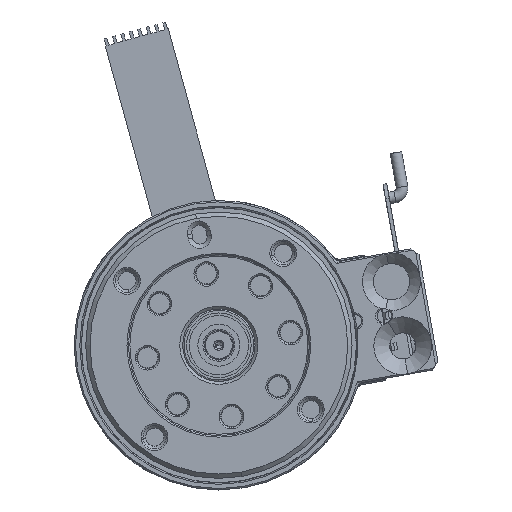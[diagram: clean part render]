
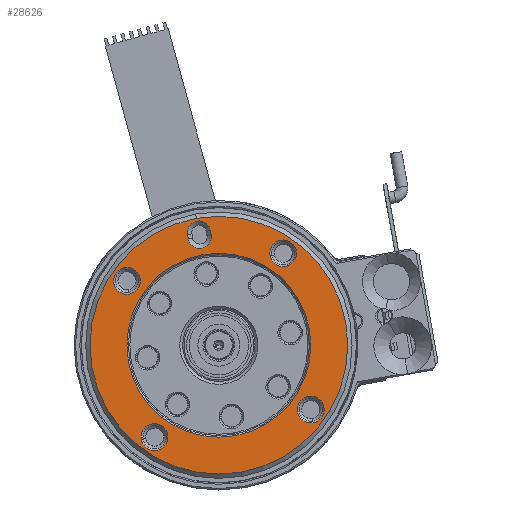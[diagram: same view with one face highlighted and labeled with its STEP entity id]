
A CAD part, front view. The second image highlights one B-rep face of the part: STEP entity #28626.
In plain terms, the highlighted planar face has unit normal (0, -1, 0) as drawn and (-1, 0, 0) by its records, which use the part's own axes.
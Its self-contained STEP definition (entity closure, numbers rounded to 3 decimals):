
#25606=CARTESIAN_POINT('',(-1.,0.,0.));
#25607=DIRECTION('',(1.,0.,0.));
#25608=DIRECTION('',(0.,0.,-1.));
#25609=AXIS2_PLACEMENT_3D('',#25606,#25607,#25608);
#25611=CARTESIAN_POINT('',(-1.,0.,0.));
#25612=DIRECTION('',(1.,0.,0.));
#25613=DIRECTION('',(0.,0.,1.));
#25614=AXIS2_PLACEMENT_3D('',#25611,#25612,#25613);
#25616=CARTESIAN_POINT('',(-1.,0.,0.));
#25617=DIRECTION('',(-1.,0.,0.));
#25618=DIRECTION('',(0.,0.,-1.));
#25619=AXIS2_PLACEMENT_3D('',#25616,#25617,#25618);
#25621=CARTESIAN_POINT('',(-1.,0.,0.));
#25622=DIRECTION('',(-1.,0.,0.));
#25623=DIRECTION('',(0.,0.,1.));
#25624=AXIS2_PLACEMENT_3D('',#25621,#25622,#25623);
#25626=CARTESIAN_POINT('',(-1.,-5.48,-5.48));
#25627=DIRECTION('',(-1.,0.,0.));
#25628=DIRECTION('',(0.,0.,-1.));
#25629=AXIS2_PLACEMENT_3D('',#25626,#25627,#25628);
#25631=CARTESIAN_POINT('',(-1.,-5.48,-5.48));
#25632=DIRECTION('',(-1.,0.,0.));
#25633=DIRECTION('',(0.,0.,1.));
#25634=AXIS2_PLACEMENT_3D('',#25631,#25632,#25633);
#25636=CARTESIAN_POINT('',(-1.,5.48,-5.48));
#25637=DIRECTION('',(-1.,0.,0.));
#25638=DIRECTION('',(0.,-1.,0.));
#25639=AXIS2_PLACEMENT_3D('',#25636,#25637,#25638);
#25641=CARTESIAN_POINT('',(-1.,5.48,-5.48));
#25642=DIRECTION('',(-1.,0.,0.));
#25643=DIRECTION('',(0.,0.,1.));
#25644=AXIS2_PLACEMENT_3D('',#25641,#25642,#25643);
#25646=CARTESIAN_POINT('',(-1.,5.48,-5.48));
#25647=DIRECTION('',(-1.,0.,0.));
#25648=DIRECTION('',(0.,1.,0.));
#25649=AXIS2_PLACEMENT_3D('',#25646,#25647,#25648);
#25651=CARTESIAN_POINT('',(-1.,5.48,-5.48));
#25652=DIRECTION('',(-1.,0.,0.));
#25653=DIRECTION('',(0.,0.,-1.));
#25654=AXIS2_PLACEMENT_3D('',#25651,#25652,#25653);
#25656=CARTESIAN_POINT('',(-1.,5.48,5.48));
#25657=DIRECTION('',(-1.,0.,0.));
#25658=DIRECTION('',(0.,0.,-1.));
#25659=AXIS2_PLACEMENT_3D('',#25656,#25657,#25658);
#25661=CARTESIAN_POINT('',(-1.,5.48,5.48));
#25662=DIRECTION('',(-1.,0.,0.));
#25663=DIRECTION('',(0.,0.,1.));
#25664=AXIS2_PLACEMENT_3D('',#25661,#25662,#25663);
#25666=CARTESIAN_POINT('',(-1.,-5.48,5.48));
#25667=DIRECTION('',(-1.,0.,0.));
#25668=DIRECTION('',(0.,-1.,0.));
#25669=AXIS2_PLACEMENT_3D('',#25666,#25667,#25668);
#25671=CARTESIAN_POINT('',(-1.,-5.48,5.48));
#25672=DIRECTION('',(-1.,0.,0.));
#25673=DIRECTION('',(0.,0.,1.));
#25674=AXIS2_PLACEMENT_3D('',#25671,#25672,#25673);
#25676=CARTESIAN_POINT('',(-1.,-5.48,5.48));
#25677=DIRECTION('',(-1.,0.,0.));
#25678=DIRECTION('',(0.,1.,0.));
#25679=AXIS2_PLACEMENT_3D('',#25676,#25677,#25678);
#25681=CARTESIAN_POINT('',(-1.,-5.48,5.48));
#25682=DIRECTION('',(-1.,0.,0.));
#25683=DIRECTION('',(0.,0.,-1.));
#25684=AXIS2_PLACEMENT_3D('',#25681,#25682,#25683);
#25686=CARTESIAN_POINT('',(-1.,0.,7.9));
#25687=DIRECTION('',(-1.,0.,0.));
#25688=DIRECTION('',(0.,-1.,0.));
#25689=AXIS2_PLACEMENT_3D('',#25686,#25687,#25688);
#25691=CARTESIAN_POINT('',(-1.,0.,7.9));
#25692=DIRECTION('',(-1.,0.,0.));
#25693=DIRECTION('',(0.,0.,1.));
#25694=AXIS2_PLACEMENT_3D('',#25691,#25692,#25693);
#25696=CARTESIAN_POINT('',(-1.,0.,7.6));
#25697=DIRECTION('',(-1.,0.,0.));
#25698=DIRECTION('',(0.,1.,0.));
#25699=AXIS2_PLACEMENT_3D('',#25696,#25697,#25698);
#25701=CARTESIAN_POINT('',(-1.,0.,7.6));
#25702=DIRECTION('',(-1.,0.,0.));
#25703=DIRECTION('',(0.,0.,-1.));
#25704=AXIS2_PLACEMENT_3D('',#25701,#25702,#25703);
#26089=DIRECTION('',(0.,0.,1.));
#26090=VECTOR('',#26089,0.3);
#26091=CARTESIAN_POINT('',(-1.,0.8,
7.6));
#26092=LINE('',#26091,#26090);
#26111=DIRECTION('',(0.,0.,-1.));
#26112=VECTOR('',#26111,0.3);
#26113=CARTESIAN_POINT('',(-1.,-0.8,
7.9));
#26114=LINE('',#26113,#26112);
#27483=CARTESIAN_POINT('',(-1.,0.,6.35));
#27484=CARTESIAN_POINT('',(-1.,0.,-6.35));
#27485=VERTEX_POINT('',#27483);
#27486=VERTEX_POINT('',#27484);
#27487=CARTESIAN_POINT('',(-1.,0.,-8.9));
#27488=CARTESIAN_POINT('',(-1.,0.,8.9));
#27489=VERTEX_POINT('',#27487);
#27490=VERTEX_POINT('',#27488);
#27491=CARTESIAN_POINT('',(-1.,-5.48,-6.405));
#27492=CARTESIAN_POINT('',(-1.,-5.48,-4.555));
#27493=VERTEX_POINT('',#27491);
#27494=VERTEX_POINT('',#27492);
#27495=CARTESIAN_POINT('',(-1.,4.555,-5.48));
#27496=CARTESIAN_POINT('',(-1.,5.48,-4.555));
#27497=VERTEX_POINT('',#27495);
#27498=VERTEX_POINT('',#27496);
#27499=CARTESIAN_POINT('',(-1.,6.405,-5.48));
#27500=VERTEX_POINT('',#27499);
#27501=CARTESIAN_POINT('',(-1.,5.48,-6.405));
#27502=VERTEX_POINT('',#27501);
#27503=CARTESIAN_POINT('',(-1.,5.48,4.555));
#27504=CARTESIAN_POINT('',(-1.,5.48,6.405));
#27505=VERTEX_POINT('',#27503);
#27506=VERTEX_POINT('',#27504);
#27507=CARTESIAN_POINT('',(-1.,-6.405,5.48));
#27508=CARTESIAN_POINT('',(-1.,-5.48,6.405));
#27509=VERTEX_POINT('',#27507);
#27510=VERTEX_POINT('',#27508);
#27511=CARTESIAN_POINT('',(-1.,-4.555,5.48));
#27512=VERTEX_POINT('',#27511);
#27513=CARTESIAN_POINT('',(-1.,-5.48,4.555));
#27514=VERTEX_POINT('',#27513);
#27515=CARTESIAN_POINT('',(-1.,-0.8,7.9));
#27516=CARTESIAN_POINT('',(-1.,0.,8.7));
#27517=VERTEX_POINT('',#27515);
#27518=VERTEX_POINT('',#27516);
#27519=CARTESIAN_POINT('',(-1.,0.8,7.9));
#27520=VERTEX_POINT('',#27519);
#27521=CARTESIAN_POINT('',(-1.,0.8,
7.6));
#27522=VERTEX_POINT('',#27521);
#27523=CARTESIAN_POINT('',(-1.,0.,6.8));
#27524=VERTEX_POINT('',#27523);
#27525=CARTESIAN_POINT('',(-1.,-0.8,7.6));
#27526=VERTEX_POINT('',#27525);
#28564=CARTESIAN_POINT('',(-1.,0.,0.));
#28565=DIRECTION('',(1.,0.,0.));
#28566=DIRECTION('',(0.,0.,1.));
#28567=AXIS2_PLACEMENT_3D('',#28564,#28565,#28566);
#28568=PLANE('',#28567);
#28570=ORIENTED_EDGE('',*,*,#28569,.T.);
#28572=ORIENTED_EDGE('',*,*,#28571,.T.);
#28573=EDGE_LOOP('',(#28570,#28572));
#28574=FACE_OUTER_BOUND('',#28573,.F.);
#28576=ORIENTED_EDGE('',*,*,#28575,.T.);
#28577=ORIENTED_EDGE('',*,*,#28554,.T.);
#28578=EDGE_LOOP('',(#28576,#28577));
#28579=FACE_BOUND('',#28578,.F.);
#28581=ORIENTED_EDGE('',*,*,#28580,.T.);
#28583=ORIENTED_EDGE('',*,*,#28582,.T.);
#28584=EDGE_LOOP('',(#28581,#28583));
#28585=FACE_BOUND('',#28584,.F.);
#28587=ORIENTED_EDGE('',*,*,#28586,.T.);
#28589=ORIENTED_EDGE('',*,*,#28588,.T.);
#28591=ORIENTED_EDGE('',*,*,#28590,.T.);
#28593=ORIENTED_EDGE('',*,*,#28592,.T.);
#28594=EDGE_LOOP('',(#28587,#28589,#28591,#28593));
#28595=FACE_BOUND('',#28594,.F.);
#28597=ORIENTED_EDGE('',*,*,#28596,.T.);
#28599=ORIENTED_EDGE('',*,*,#28598,.T.);
#28600=EDGE_LOOP('',(#28597,#28599));
#28601=FACE_BOUND('',#28600,.F.);
#28603=ORIENTED_EDGE('',*,*,#28602,.T.);
#28605=ORIENTED_EDGE('',*,*,#28604,.T.);
#28607=ORIENTED_EDGE('',*,*,#28606,.T.);
#28609=ORIENTED_EDGE('',*,*,#28608,.T.);
#28610=EDGE_LOOP('',(#28603,#28605,#28607,#28609));
#28611=FACE_BOUND('',#28610,.F.);
#28613=ORIENTED_EDGE('',*,*,#28612,.T.);
#28615=ORIENTED_EDGE('',*,*,#28614,.T.);
#28617=ORIENTED_EDGE('',*,*,#28616,.F.);
#28619=ORIENTED_EDGE('',*,*,#28618,.T.);
#28621=ORIENTED_EDGE('',*,*,#28620,.T.);
#28623=ORIENTED_EDGE('',*,*,#28622,.F.);
#28624=EDGE_LOOP('',(#28613,#28615,#28617,#28619,#28621,#28623));
#28625=FACE_BOUND('',#28624,.F.);
#28626=ADVANCED_FACE('',(#28574,#28579,#28585,#28595,#28601,#28611,#28625),
#28568,.F.);
#25610=CIRCLE('',#25609,8.9);
#25615=CIRCLE('',#25614,8.9);
#25620=CIRCLE('',#25619,6.35);
#25625=CIRCLE('',#25624,6.35);
#25630=CIRCLE('',#25629,0.925);
#25635=CIRCLE('',#25634,0.925);
#25640=CIRCLE('',#25639,0.925);
#25645=CIRCLE('',#25644,0.925);
#25650=CIRCLE('',#25649,0.925);
#25655=CIRCLE('',#25654,0.925);
#25660=CIRCLE('',#25659,0.925);
#25665=CIRCLE('',#25664,0.925);
#25670=CIRCLE('',#25669,0.925);
#25675=CIRCLE('',#25674,0.925);
#25680=CIRCLE('',#25679,0.925);
#25685=CIRCLE('',#25684,0.925);
#25690=CIRCLE('',#25689,0.8);
#25695=CIRCLE('',#25694,0.8);
#25700=CIRCLE('',#25699,0.8);
#25705=CIRCLE('',#25704,0.8);
#28554=EDGE_CURVE('',#27485,#27486,#25625,.T.);
#28569=EDGE_CURVE('',#27489,#27490,#25610,.T.);
#28571=EDGE_CURVE('',#27490,#27489,#25615,.T.);
#28575=EDGE_CURVE('',#27486,#27485,#25620,.T.);
#28580=EDGE_CURVE('',#27493,#27494,#25630,.T.);
#28582=EDGE_CURVE('',#27494,#27493,#25635,.T.);
#28586=EDGE_CURVE('',#27497,#27498,#25640,.T.);
#28588=EDGE_CURVE('',#27498,#27500,#25645,.T.);
#28590=EDGE_CURVE('',#27500,#27502,#25650,.T.);
#28592=EDGE_CURVE('',#27502,#27497,#25655,.T.);
#28596=EDGE_CURVE('',#27505,#27506,#25660,.T.);
#28598=EDGE_CURVE('',#27506,#27505,#25665,.T.);
#28602=EDGE_CURVE('',#27509,#27510,#25670,.T.);
#28604=EDGE_CURVE('',#27510,#27512,#25675,.T.);
#28606=EDGE_CURVE('',#27512,#27514,#25680,.T.);
#28608=EDGE_CURVE('',#27514,#27509,#25685,.T.);
#28612=EDGE_CURVE('',#27517,#27518,#25690,.T.);
#28614=EDGE_CURVE('',#27518,#27520,#25695,.T.);
#28616=EDGE_CURVE('',#27522,#27520,#26092,.T.);
#28618=EDGE_CURVE('',#27522,#27524,#25700,.T.);
#28620=EDGE_CURVE('',#27524,#27526,#25705,.T.);
#28622=EDGE_CURVE('',#27517,#27526,#26114,.T.);
